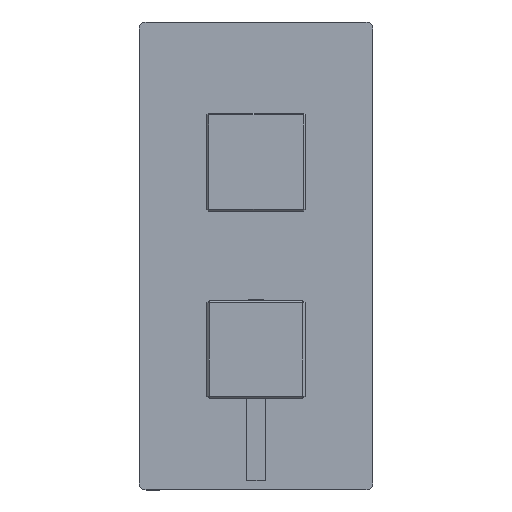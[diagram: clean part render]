
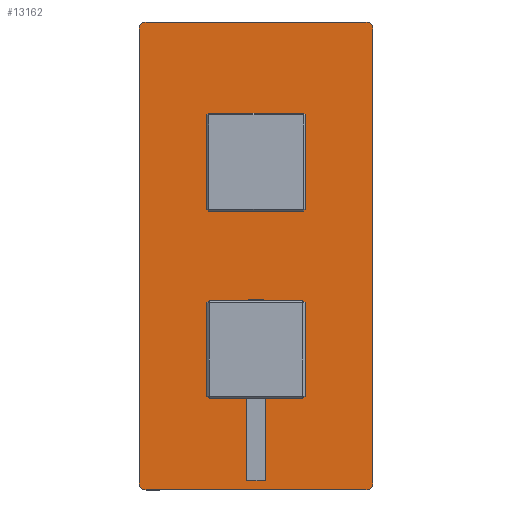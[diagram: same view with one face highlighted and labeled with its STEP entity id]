
A CAD part, top view. The second image highlights one B-rep face of the part: STEP entity #13162.
In plain terms, the highlighted planar face has unit normal (0, 0, 1).
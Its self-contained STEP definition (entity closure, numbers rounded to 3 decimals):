
#1168 = EDGE_CURVE ( 'NONE', #14231, #4684, #5806, .T. ) ;
#2358 = CARTESIAN_POINT ( 'NONE',  ( 100., -50., 2. ) ) ;
#2395 = EDGE_CURVE ( 'NONE', #15120, #16482, #11252, .T. ) ;
#2439 = CARTESIAN_POINT ( 'NONE',  ( -100., -50., 2. ) ) ;
#2511 = CIRCLE ( 'NONE', #14989, 3. ) ;
#2814 = EDGE_CURVE ( 'NONE', #16482, #17893, #4449, .T. ) ;
#2838 = DIRECTION ( 'NONE',  ( -1., 0., 0. ) ) ;
#2970 = EDGE_CURVE ( 'NONE', #16046, #13898, #18880, .T. ) ;
#3288 = CARTESIAN_POINT ( 'NONE',  ( -40., 0., 2. ) ) ;
#3454 = ORIENTED_EDGE ( 'NONE', *, *, #15289, .T. ) ;
#4294 = CARTESIAN_POINT ( 'NONE',  ( 19.3, 0., 2. ) ) ;
#4448 = VECTOR ( 'NONE', #2838, 1000. ) ;
#4449 = CIRCLE ( 'NONE', #8161, 3. ) ;
#4684 = VERTEX_POINT ( 'NONE', #14895 ) ;
#5030 = ORIENTED_EDGE ( 'NONE', *, *, #14256, .F. ) ;
#5204 = ORIENTED_EDGE ( 'NONE', *, *, #23704, .T. ) ;
#5502 = DIRECTION ( 'NONE',  ( 1., 0., 0. ) ) ;
#5717 = ORIENTED_EDGE ( 'NONE', *, *, #14395, .F. ) ;
#5806 = CIRCLE ( 'NONE', #21996, 20.7 ) ;
#6085 = DIRECTION ( 'NONE',  ( 1., 0., 0. ) ) ;
#6191 = CARTESIAN_POINT ( 'NONE',  ( 97., -47., 2. ) ) ;
#6339 = AXIS2_PLACEMENT_3D ( 'NONE', #6191, #19511, #8647 ) ;
#6979 = CIRCLE ( 'NONE', #26880, 20.7 ) ;
#7445 = CIRCLE ( 'NONE', #23653, 20.7 ) ;
#7497 = DIRECTION ( 'NONE',  ( 0., 0., 1. ) ) ;
#7723 = DIRECTION ( 'NONE',  ( 1., 0., 0. ) ) ;
#7805 = EDGE_CURVE ( 'NONE', #16573, #15120, #2511, .T. ) ;
#8161 = AXIS2_PLACEMENT_3D ( 'NONE', #27017, #13817, #7723 ) ;
#8647 = DIRECTION ( 'NONE',  ( 1., 0., 0. ) ) ;
#8689 = DIRECTION ( 'NONE',  ( 0., 0., 1. ) ) ;
#9093 = VERTEX_POINT ( 'NONE', #14973 ) ;
#9188 = LINE ( 'NONE', #18026, #4448 ) ;
#9841 = DIRECTION ( 'NONE',  ( 1., 0., 0. ) ) ;
#10111 = EDGE_LOOP ( 'NONE', ( #12102, #23415, #24875, #12503, #3454, #5204, #19328, #13983 ) ) ;
#10337 = CARTESIAN_POINT ( 'NONE',  ( 100., -50., 2. ) ) ;
#10767 = EDGE_LOOP ( 'NONE', ( #5717, #5030 ) ) ;
#11252 = LINE ( 'NONE', #2439, #21932 ) ;
#11452 = CIRCLE ( 'NONE', #19287, 3. ) ;
#11532 = DIRECTION ( 'NONE',  ( 0., 0., 1. ) ) ;
#11962 = DIRECTION ( 'NONE',  ( 1., 0., 0. ) ) ;
#12102 = ORIENTED_EDGE ( 'NONE', *, *, #27881, .T. ) ;
#12503 = ORIENTED_EDGE ( 'NONE', *, *, #2814, .T. ) ;
#12676 = LINE ( 'NONE', #2358, #28328 ) ;
#12699 = ORIENTED_EDGE ( 'NONE', *, *, #1168, .F. ) ;
#13162 = ADVANCED_FACE ( 'NONE', ( #28115, #17506, #21440 ), #17078, .T. ) ;
#13281 = CIRCLE ( 'NONE', #6339, 3. ) ;
#13552 = VERTEX_POINT ( 'NONE', #24242 ) ;
#13791 = EDGE_CURVE ( 'NONE', #13898, #25883, #11452, .T. ) ;
#13817 = DIRECTION ( 'NONE',  ( 0., 0., 1. ) ) ;
#13898 = VERTEX_POINT ( 'NONE', #19009 ) ;
#13983 = ORIENTED_EDGE ( 'NONE', *, *, #13791, .T. ) ;
#14051 = CARTESIAN_POINT ( 'NONE',  ( -19.3, 0., 2. ) ) ;
#14231 = VERTEX_POINT ( 'NONE', #14051 ) ;
#14256 = EDGE_CURVE ( 'NONE', #9093, #27818, #7445, .T. ) ;
#14267 = EDGE_LOOP ( 'NONE', ( #18493, #12699 ) ) ;
#14361 = EDGE_CURVE ( 'NONE', #4684, #14231, #24555, .T. ) ;
#14395 = EDGE_CURVE ( 'NONE', #27818, #9093, #6979, .T. ) ;
#14807 = CARTESIAN_POINT ( 'NONE',  ( 97., 47., 2. ) ) ;
#14895 = CARTESIAN_POINT ( 'NONE',  ( -60.7, 0., 2. ) ) ;
#14973 = CARTESIAN_POINT ( 'NONE',  ( 60.7, 0., 2. ) ) ;
#14989 = AXIS2_PLACEMENT_3D ( 'NONE', #20015, #7497, #24497 ) ;
#15120 = VERTEX_POINT ( 'NONE', #27601 ) ;
#15289 = EDGE_CURVE ( 'NONE', #17893, #13552, #12676, .T. ) ;
#15350 = CARTESIAN_POINT ( 'NONE',  ( -97., 50., 2. ) ) ;
#16046 = VERTEX_POINT ( 'NONE', #19599 ) ;
#16356 = DIRECTION ( 'NONE',  ( 0., 0., 1. ) ) ;
#16390 = DIRECTION ( 'NONE',  ( 0., 0., 1. ) ) ;
#16482 = VERTEX_POINT ( 'NONE', #26088 ) ;
#16573 = VERTEX_POINT ( 'NONE', #15350 ) ;
#16975 = DIRECTION ( 'NONE',  ( 1., 0., 0. ) ) ;
#17078 = PLANE ( 'NONE',  #19326 ) ;
#17506 = FACE_OUTER_BOUND ( 'NONE', #10111, .T. ) ;
#17893 = VERTEX_POINT ( 'NONE', #28555 ) ;
#18026 = CARTESIAN_POINT ( 'NONE',  ( 100., 50., 2. ) ) ;
#18493 = ORIENTED_EDGE ( 'NONE', *, *, #14361, .F. ) ;
#18543 = CARTESIAN_POINT ( 'NONE',  ( 40., 0., 2. ) ) ;
#18880 = LINE ( 'NONE', #10337, #27550 ) ;
#18969 = CARTESIAN_POINT ( 'NONE',  ( -40., 0., 2. ) ) ;
#19009 = CARTESIAN_POINT ( 'NONE',  ( 100., 47., 2. ) ) ;
#19287 = AXIS2_PLACEMENT_3D ( 'NONE', #14807, #16390, #16975 ) ;
#19326 = AXIS2_PLACEMENT_3D ( 'NONE', #25927, #26070, #6085 ) ;
#19328 = ORIENTED_EDGE ( 'NONE', *, *, #2970, .T. ) ;
#19511 = DIRECTION ( 'NONE',  ( 0., 0., 1. ) ) ;
#19599 = CARTESIAN_POINT ( 'NONE',  ( 100., -47., 2. ) ) ;
#20015 = CARTESIAN_POINT ( 'NONE',  ( -97., 47., 2. ) ) ;
#20090 = DIRECTION ( 'NONE',  ( 0., -1., 0. ) ) ;
#21440 = FACE_BOUND ( 'NONE', #10767, .T. ) ;
#21521 = DIRECTION ( 'NONE',  ( 1., 0., 0. ) ) ;
#21932 = VECTOR ( 'NONE', #20090, 1000. ) ;
#21996 = AXIS2_PLACEMENT_3D ( 'NONE', #3288, #11532, #11962 ) ;
#23415 = ORIENTED_EDGE ( 'NONE', *, *, #7805, .T. ) ;
#23653 = AXIS2_PLACEMENT_3D ( 'NONE', #18543, #25644, #9841 ) ;
#23704 = EDGE_CURVE ( 'NONE', #13552, #16046, #13281, .T. ) ;
#23749 = CARTESIAN_POINT ( 'NONE',  ( 40., 0., 2. ) ) ;
#24063 = CARTESIAN_POINT ( 'NONE',  ( 97., 50., 2. ) ) ;
#24242 = CARTESIAN_POINT ( 'NONE',  ( 97., -50., 2. ) ) ;
#24497 = DIRECTION ( 'NONE',  ( 1., 0., 0. ) ) ;
#24555 = CIRCLE ( 'NONE', #28287, 20.7 ) ;
#24875 = ORIENTED_EDGE ( 'NONE', *, *, #2395, .T. ) ;
#25644 = DIRECTION ( 'NONE',  ( 0., 0., 1. ) ) ;
#25883 = VERTEX_POINT ( 'NONE', #24063 ) ;
#25927 = CARTESIAN_POINT ( 'NONE',  ( 0., 0., 2. ) ) ;
#26070 = DIRECTION ( 'NONE',  ( 0., 0., 1. ) ) ;
#26078 = DIRECTION ( 'NONE',  ( 1., 0., 0. ) ) ;
#26088 = CARTESIAN_POINT ( 'NONE',  ( -100., -47., 2. ) ) ;
#26880 = AXIS2_PLACEMENT_3D ( 'NONE', #23749, #8689, #26078 ) ;
#27017 = CARTESIAN_POINT ( 'NONE',  ( -97., -47., 2. ) ) ;
#27550 = VECTOR ( 'NONE', #28027, 1000. ) ;
#27601 = CARTESIAN_POINT ( 'NONE',  ( -100., 47., 2. ) ) ;
#27818 = VERTEX_POINT ( 'NONE', #4294 ) ;
#27881 = EDGE_CURVE ( 'NONE', #25883, #16573, #9188, .T. ) ;
#28027 = DIRECTION ( 'NONE',  ( 0., 1., 0. ) ) ;
#28115 = FACE_BOUND ( 'NONE', #14267, .T. ) ;
#28287 = AXIS2_PLACEMENT_3D ( 'NONE', #18969, #16356, #5502 ) ;
#28328 = VECTOR ( 'NONE', #21521, 1000. ) ;
#28555 = CARTESIAN_POINT ( 'NONE',  ( -97., -50., 2. ) ) ;
